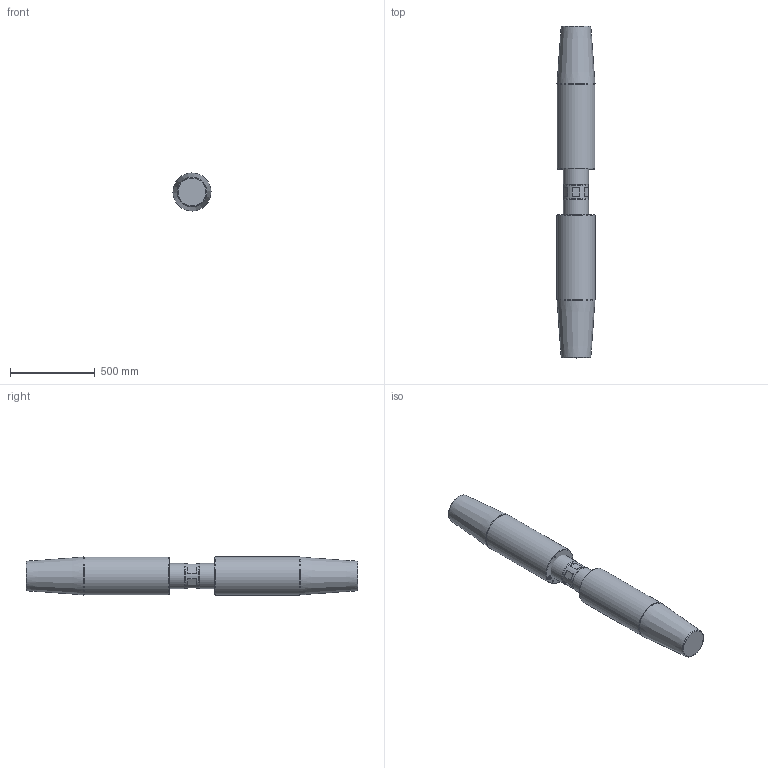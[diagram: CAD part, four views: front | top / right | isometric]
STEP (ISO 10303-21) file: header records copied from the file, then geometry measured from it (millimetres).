
FILE_DESCRIPTION(/* description */ (''),/* implementation_level */ '2;1');
FILE_NAME(/* name */ 'D:\Clienti\Redaelli (inventor)\CYA\STEP\Arrangement\CYA076 52 061 2.stp',/* time_stamp */ '2021-05-09T10:24:28+02:00',/* author */ ('fabri'),/* organization */ (''),/* preprocessor_version */ 'ST-DEVELOPER v16.13',/* originating_system */ 'Autodesk Inventor 2018',/* authorisation */ '');
FILE_SCHEMA (('AUTOMOTIVE_DESIGN { 1 0 10303 214 3 1 1 }'));
Length unit declared in the file: millimetre
Products named in the file (4): CYA012-54-062-0; TBF012-12-012-1; TBF012-13-012-0; TBF012-13-012-0_1
Assembly tree (3 placements, depth 2):
  CYA012-54-062-0
    TBF012-12-012-1
    TBF012-13-012-0
    TBF012-13-012-0_1
Bounding box: 224.84 x 1964 x 224.84 mm (x, y, z)
Volume: 77295808.3 mm3; surface area: 1727467.4 mm2
Topology: 3 solids, 3 shells, 484 faces, 1290 edges, 858 vertices
Faces by surface type: bspline 249, plane 192, cylinder 25, cone 14, torus 4
Full cylindrical faces by diameter (mm): 10.106 x8, 146 x1, 150 x2, 225 x2
Entity records: 16612 total; most frequent: CARTESIAN_POINT 6315, ORIENTED_EDGE 2502, DIRECTION 1255, EDGE_CURVE 1251, VERTEX_POINT 850, LINE 691, VECTOR 691, EDGE_LOOP 561
